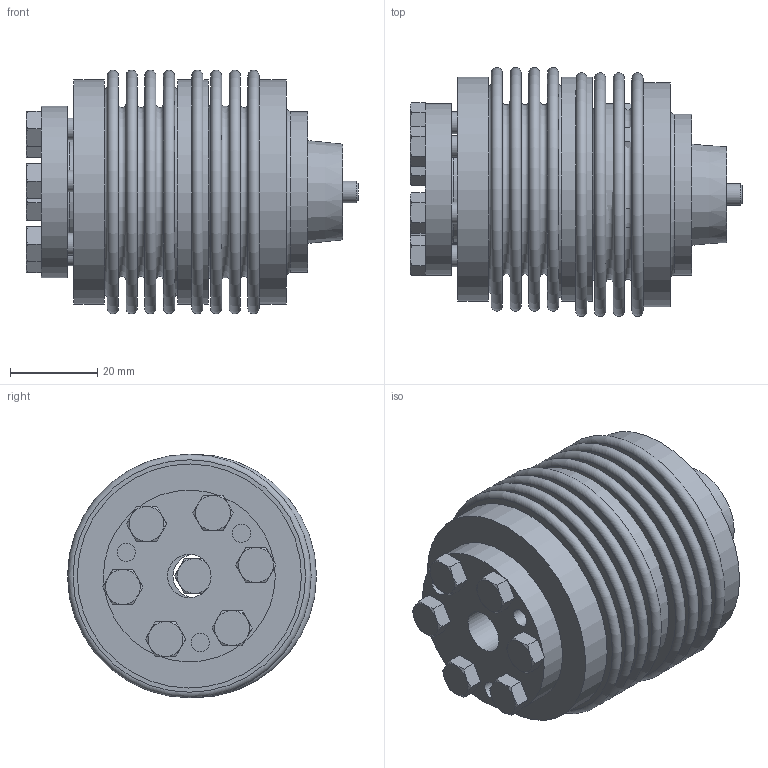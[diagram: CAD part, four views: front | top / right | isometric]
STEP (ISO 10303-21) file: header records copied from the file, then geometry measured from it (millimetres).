
FILE_DESCRIPTION( ( 'Unknown' ), '1' );
FILE_NAME( 'C:/Dokumente und Einstellungen/Sven/Desktop/homepage/cad - homepage/KB5/KB5-30-53.stp', 'Unknown', ( 'Unknown' ), ( 'Unknown' ), 'XStep 1.0', 'Unknown', ' ' );
FILE_SCHEMA( ( 'automotive_design' ) );
Length unit declared in the file: millimetre
Products named in the file (5): Assem1; Hex Screw GradeC_DIN_ISO 4018 - M5 x 20-NN; KB30_Standard; BA30_Standard; BK30_Standard
Bounding box: 76.31 x 57.22 x 55.99 mm (x, y, z)
Volume: 91197.1 mm3; surface area: 90469.9 mm2
Topology: 21 solids, 21 shells, 387 faces, 793 edges, 499 vertices
Faces by surface type: plane 171, cone 97, cylinder 81, torus 38
Full cylindrical faces by diameter (mm): 4.2 x27, 5 x13, 5.5 x18, 10 x3, 24.4 x3, 37 x3, 39.5 x3, 46.5 x4, 47.3 x4, 51.5 x3
Entity records: 2326 total; most frequent: DIRECTION 402, CARTESIAN_POINT 359, ORIENTED_EDGE 232, AXIS2_PLACEMENT_3D 195, EDGE_LOOP 186, FACE_OUTER_BOUND 128, EDGE_CURVE 116, VERTEX_POINT 104
